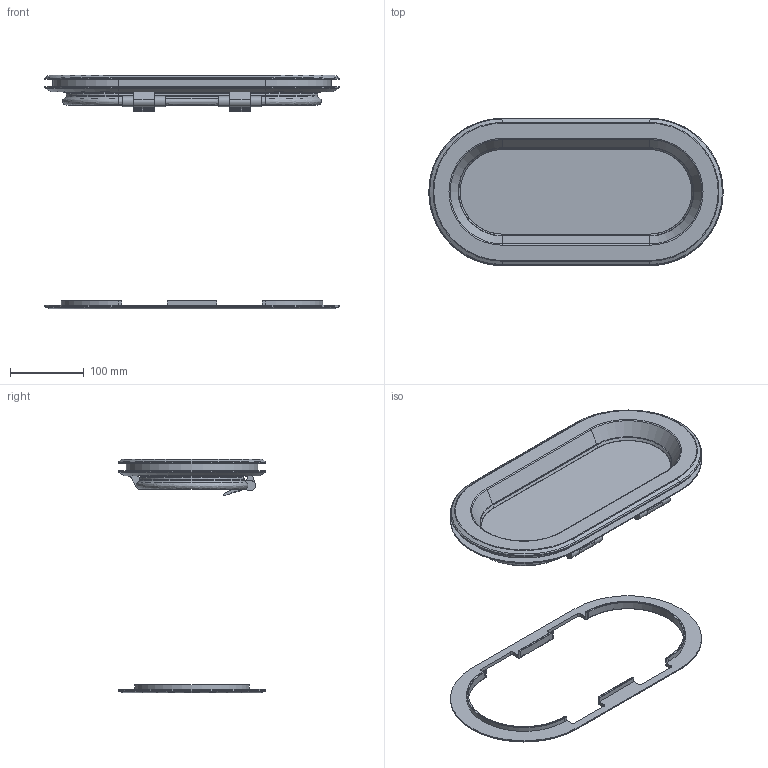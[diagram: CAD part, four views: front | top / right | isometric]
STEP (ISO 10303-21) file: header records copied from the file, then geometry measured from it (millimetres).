
FILE_DESCRIPTION((''),'2;1');
FILE_NAME('LEWMAR_PORTLIGHT_ATLANTIC_32_ASM','2008-02-29T',('skennedy'),(''),'PRO/ENGINEER BY PARAMETRIC TECHNOLOGY CORPORATION, 2007030','PRO/ENGINEER BY PARAMETRIC TECHNOLOGY CORPORATION, 2007030','');
FILE_SCHEMA(('CONFIG_CONTROL_DESIGN'));
Length unit declared in the file: millimetre
Products named in the file (7): 32_OUTER_FRAME; 32_THIN_VALANCE; 32_ACRYLIC_FRAME; ATLANTIC_PORTLIGHT_HANDLE; 32_THICK_VALANCE; 32_ACRYLIC; LEWMAR_PORTLIGHT_ATLANTIC_32_ASM
Assembly tree (7 placements, depth 2):
  LEWMAR_PORTLIGHT_ATLANTIC_32_ASM
    32_OUTER_FRAME
    32_THIN_VALANCE
    32_ACRYLIC_FRAME
    ATLANTIC_PORTLIGHT_HANDLE  x2
    32_THICK_VALANCE
    32_ACRYLIC
Bounding box: 400 x 200 x 318 mm (x, y, z)
Volume: 1215164.2 mm3; surface area: 366901.9 mm2
Topology: 7 solids, 7 shells, 736 faces, 1929 edges, 1247 vertices
Faces by surface type: plane 436, cylinder 178, bspline 104, cone 18
Entity records: 26124 total; most frequent: CARTESIAN_POINT 9097, ORIENTED_EDGE 3634, DIRECTION 3257, EDGE_CURVE 1817, VECTOR 1225, LINE 1225, VERTEX_POINT 1175, AXIS2_PLACEMENT_3D 1016
